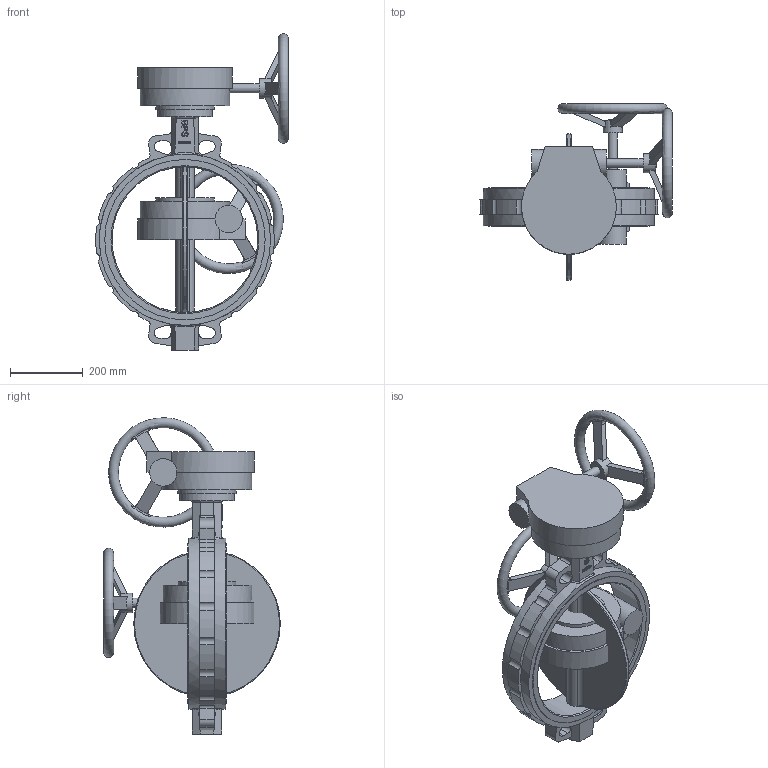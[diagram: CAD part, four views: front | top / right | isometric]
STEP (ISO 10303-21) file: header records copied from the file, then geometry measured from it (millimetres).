
FILE_DESCRIPTION( ( 'Unknown' ), '1' );
FILE_NAME( 'R:/ECCUA/ROOTSI BPS 3D vidinad/Poordklapid Wafer type/Butterfly valve(wafer) with gearbox BPS/STEP formaat/BPS 2303400 butterfly valve DN400.stp', 'Unknown', ( 'Unknown' ), ( 'Unknown' ), 'PSStep 10.1', 'Unknown', ' ' );
FILE_SCHEMA( ( 'AUTOMOTIVE_DESIGN { 1 0 10303 214 1 1 1 1 }' ) );
Length unit declared in the file: millimetre
Products named in the file (3): Assem1; Butterfly valve wafer type DN400 BPS; Gearbox DN400 BPS
Bounding box: 528.17 x 484.49 x 867.74 mm (x, y, z)
Volume: 32377293.7 mm3; surface area: 2299134.1 mm2
Topology: 4 solids, 4 shells, 590 faces, 1632 edges, 1078 vertices
Faces by surface type: plane 226, cylinder 178, extrusion 98, bspline 66, torus 18, cone 4
Full cylindrical faces by diameter (mm): 14 x8, 25 x4, 53 x2, 75 x2, 150 x2, 160 x2, 245 x2, 400 x2, 440 x4, 470 x4
Entity records: 17506 total; most frequent: CARTESIAN_POINT 7976, ORIENTED_EDGE 1558, DIRECTION 1298, EDGE_CURVE 779, VERTEX_POINT 528, AXIS2_PLACEMENT_3D 446, VECTOR 406, EDGE_LOOP 359
